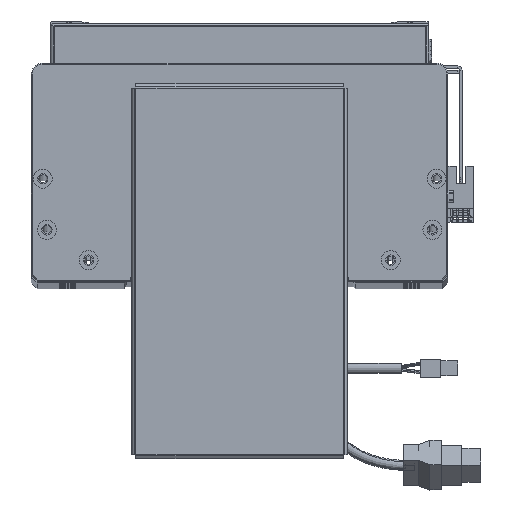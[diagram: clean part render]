
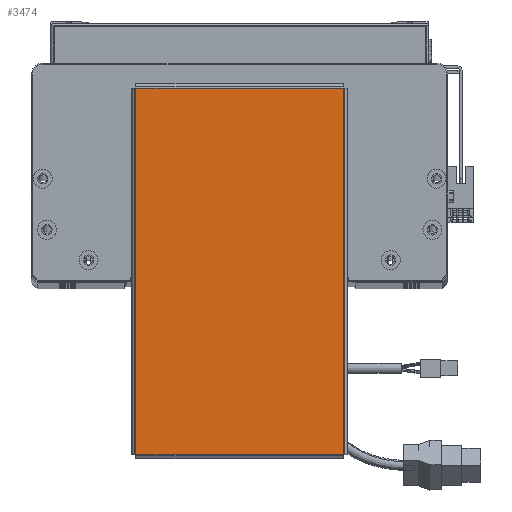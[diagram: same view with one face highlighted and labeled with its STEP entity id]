
A CAD part, top view. The second image highlights one B-rep face of the part: STEP entity #3474.
In plain terms, the highlighted planar face has unit normal (0, 0, 1).
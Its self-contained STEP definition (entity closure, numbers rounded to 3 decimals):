
#1335 = ORIENTED_EDGE ( 'NONE', *, *, #68629, .T. ) ;
#2623 = DIRECTION ( 'NONE',  ( -1., 0., 0. ) ) ;
#3474 = ADVANCED_FACE ( 'NONE', ( #51339 ), #22126, .T. ) ;
#3568 = LINE ( 'NONE', #40223, #45045 ) ;
#10633 = LINE ( 'NONE', #61247, #12373 ) ;
#11815 = DIRECTION ( 'NONE',  ( 0., 0., 1. ) ) ;
#11969 = ORIENTED_EDGE ( 'NONE', *, *, #15968, .T. ) ;
#12058 = DIRECTION ( 'NONE',  ( 1., 0., 0. ) ) ;
#12373 = VECTOR ( 'NONE', #2623, 1000. ) ;
#15968 = EDGE_CURVE ( 'NONE', #43900, #64761, #20152, .T. ) ;
#18356 = EDGE_CURVE ( 'NONE', #64761, #24494, #10633, .T. ) ;
#18974 = EDGE_CURVE ( 'NONE', #59023, #43900, #3568, .T. ) ;
#19164 = CARTESIAN_POINT ( 'NONE',  ( -96.763, -54.763, 0. ) ) ;
#20152 = LINE ( 'NONE', #55110, #48930 ) ;
#22126 = PLANE ( 'NONE',  #65217 ) ;
#24494 = VERTEX_POINT ( 'NONE', #34475 ) ;
#33217 = CARTESIAN_POINT ( 'NONE',  ( 0., 0., 0. ) ) ;
#33334 = ORIENTED_EDGE ( 'NONE', *, *, #18974, .T. ) ;
#33396 = EDGE_LOOP ( 'NONE', ( #33334, #11969, #63146, #1335 ) ) ;
#34475 = CARTESIAN_POINT ( 'NONE',  ( -96.763, 54.763, 0. ) ) ;
#39309 = DIRECTION ( 'NONE',  ( 0., 1., 0. ) ) ;
#39983 = DIRECTION ( 'NONE',  ( 1., 0., 0. ) ) ;
#40223 = CARTESIAN_POINT ( 'NONE',  ( -96.793, -54.763, 0. ) ) ;
#43492 = VECTOR ( 'NONE', #62946, 1000. ) ;
#43900 = VERTEX_POINT ( 'NONE', #69189 ) ;
#45045 = VECTOR ( 'NONE', #39983, 1000. ) ;
#48930 = VECTOR ( 'NONE', #39309, 1000. ) ;
#51339 = FACE_OUTER_BOUND ( 'NONE', #33396, .T. ) ;
#52554 = CARTESIAN_POINT ( 'NONE',  ( -96.763, 54.793, 0. ) ) ;
#55110 = CARTESIAN_POINT ( 'NONE',  ( 96.763, -54.793, 0. ) ) ;
#59023 = VERTEX_POINT ( 'NONE', #19164 ) ;
#59813 = CARTESIAN_POINT ( 'NONE',  ( 96.763, 54.763, 0. ) ) ;
#61247 = CARTESIAN_POINT ( 'NONE',  ( 96.793, 54.763, 0. ) ) ;
#62946 = DIRECTION ( 'NONE',  ( 0., -1., 0. ) ) ;
#63146 = ORIENTED_EDGE ( 'NONE', *, *, #18356, .T. ) ;
#64761 = VERTEX_POINT ( 'NONE', #59813 ) ;
#65217 = AXIS2_PLACEMENT_3D ( 'NONE', #33217, #11815, #12058 ) ;
#68023 = LINE ( 'NONE', #52554, #43492 ) ;
#68629 = EDGE_CURVE ( 'NONE', #24494, #59023, #68023, .T. ) ;
#69189 = CARTESIAN_POINT ( 'NONE',  ( 96.763, -54.763, 0. ) ) ;
